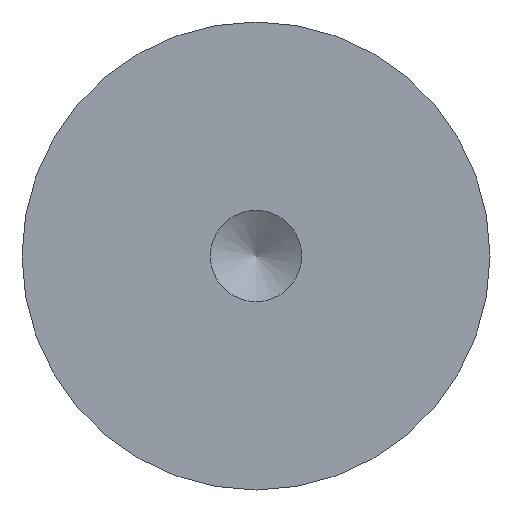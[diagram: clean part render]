
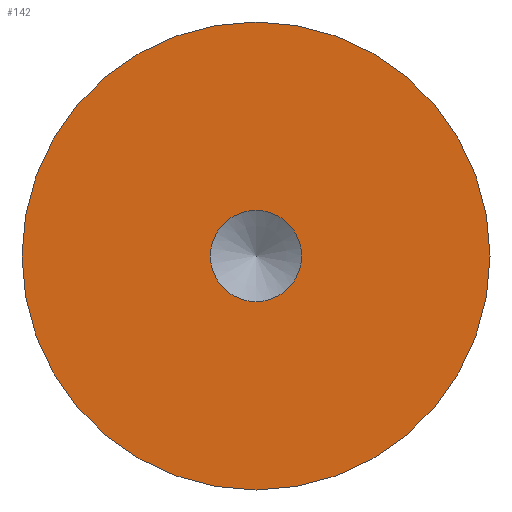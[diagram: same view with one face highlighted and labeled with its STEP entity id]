
A CAD part, front view. The second image highlights one B-rep face of the part: STEP entity #142.
In plain terms, the highlighted planar face has unit normal (0, -1, 0).
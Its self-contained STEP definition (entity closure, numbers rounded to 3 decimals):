
#142 = ADVANCED_FACE( '', ( #315, #316 ), #317, .F. );
#315 = FACE_BOUND( '', #532, .T. );
#316 = FACE_OUTER_BOUND( '', #533, .T. );
#317 = PLANE( '', #534 );
#532 = EDGE_LOOP( '', ( #1081 ) );
#533 = EDGE_LOOP( '', ( #1082 ) );
#534 = AXIS2_PLACEMENT_3D( '', #1083, #1084, #1085 );
#1081 = ORIENTED_EDGE( '', *, *, #1728, .F. );
#1082 = ORIENTED_EDGE( '', *, *, #1729, .T. );
#1083 = CARTESIAN_POINT( '', ( 20.5, 0., 0. ) );
#1084 = DIRECTION( '', ( 0., 1., 0. ) );
#1085 = DIRECTION( '', ( 0., 0., 1. ) );
#1728 = EDGE_CURVE( '', #2196, #2196, #2197, .T. );
#1729 = EDGE_CURVE( '', #2198, #2198, #2199, .T. );
#2196 = VERTEX_POINT( '', #3151 );
#2197 = CIRCLE( '', #3152, 4. );
#2198 = VERTEX_POINT( '', #3153 );
#2199 = CIRCLE( '', #3154, 20.5 );
#3151 = CARTESIAN_POINT( '', ( 0., 0., -4. ) );
#3152 = AXIS2_PLACEMENT_3D( '', #3616, #3617, #3618 );
#3153 = CARTESIAN_POINT( '', ( 0., 0., -20.5 ) );
#3154 = AXIS2_PLACEMENT_3D( '', #3619, #3620, #3621 );
#3616 = CARTESIAN_POINT( '', ( 0., 0., 0. ) );
#3617 = DIRECTION( '', ( 0., -1., 0. ) );
#3618 = DIRECTION( '', ( 0., 0., -1. ) );
#3619 = CARTESIAN_POINT( '', ( 0., 0., 0. ) );
#3620 = DIRECTION( '', ( 0., -1., 0. ) );
#3621 = DIRECTION( '', ( 0., 0., -1. ) );
